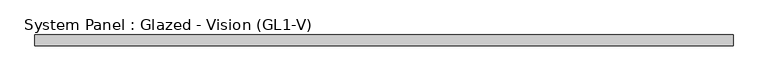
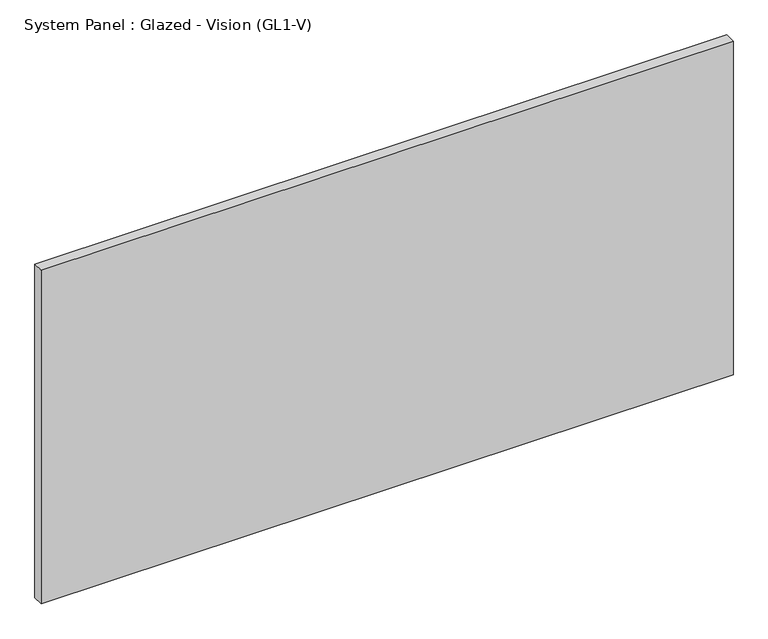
"""IFC4 building model written with IfcOpenShell, lengths in millimetres: plate geometry, System Panel : Glazed - Vision (GL1-V)."""

from ifc_helpers import new_model, si_unit, origin, origin_with_axes, place, context, project, spatial, polyline, outline, extrude, source, transform, mapped, element, save


def system_panel_glazed_vision_gl1_v_aa7b5535(model_context):
    return source(origin(), model_context, "Body", "SweptSolid", [
        extrude(outline(polyline([(815.975, -25.4), (-815.975, -25.4), (-815.975, 0.0), (815.975, 0.0), (815.975, -25.4)])), origin_with_axes(), (0.0, 0.0, 1.0), 831.85),
    ])


if __name__ == "__main__":
    model = new_model("IFC4")
    model_context = context("Model", 3, world=origin())
    ifc_project = project(units=[si_unit("LENGTHUNIT", "METRE", prefix="MILLI")], contexts=[model_context])
    site = spatial("IfcSite", under=ifc_project)
    building = spatial("IfcBuilding", under=site)
    placement = place(None, origin())
    system_panel_glazed_vision_gl1_v_shape = system_panel_glazed_vision_gl1_v_aa7b5535(model_context)
    element("IfcPlate", 1, ObjectType="System Panel : Glazed - Vision (GL1-V)", at=placement, inside=building, context=model_context, shape_type="MappedRepresentation", body=[
        mapped(system_panel_glazed_vision_gl1_v_shape, transform((0.0, 0.0, 0.0), x_axis=(1.0, 0.0, 0.0), y_axis=(0.0, 1.0, 0.0), z_axis=(0.0, 0.0, 1.0))),
    ])
    save(model, "model.ifc")
